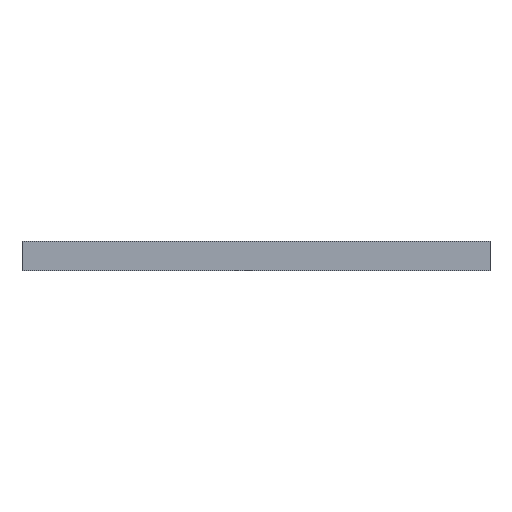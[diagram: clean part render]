
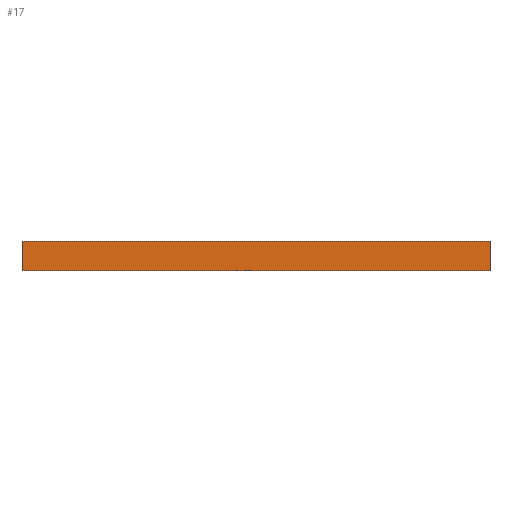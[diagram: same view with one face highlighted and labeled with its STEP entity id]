
A CAD part, front view. The second image highlights one B-rep face of the part: STEP entity #17.
In plain terms, the highlighted planar face has unit normal (0, -1, 0).
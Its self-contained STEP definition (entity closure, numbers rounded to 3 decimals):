
#17 = ADVANCED_FACE('',(#18),#32,.F.);
#18 = FACE_BOUND('',#19,.F.);
#19 = EDGE_LOOP('',(#20,#55,#83,#111));
#20 = ORIENTED_EDGE('',*,*,#21,.T.);
#21 = EDGE_CURVE('',#22,#24,#26,.T.);
#22 = VERTEX_POINT('',#23);
#23 = CARTESIAN_POINT('',(-12.7,-54.2,189.));
#24 = VERTEX_POINT('',#25);
#25 = CARTESIAN_POINT('',(-12.7,-54.2,190.6));
#26 = SURFACE_CURVE('',#27,(#31,#43),.PCURVE_S1.);
#27 = LINE('',#28,#29);
#28 = CARTESIAN_POINT('',(-12.7,-54.2,189.));
#29 = VECTOR('',#30,1.);
#30 = DIRECTION('',(0.,0.,1.));
#31 = PCURVE('',#32,#37);
#32 = PLANE('',#33);
#33 = AXIS2_PLACEMENT_3D('',#34,#35,#36);
#34 = CARTESIAN_POINT('',(-12.7,-54.2,189.));
#35 = DIRECTION('',(0.,1.,0.));
#36 = DIRECTION('',(1.,0.,0.));
#37 = DEFINITIONAL_REPRESENTATION('',(#38),#42);
#38 = LINE('',#39,#40);
#39 = CARTESIAN_POINT('',(0.,0.));
#40 = VECTOR('',#41,1.);
#41 = DIRECTION('',(0.,-1.));
#42 = ( GEOMETRIC_REPRESENTATION_CONTEXT(2) 
PARAMETRIC_REPRESENTATION_CONTEXT() REPRESENTATION_CONTEXT('2D SPACE',''
  ) );
#43 = PCURVE('',#44,#49);
#44 = PLANE('',#45);
#45 = AXIS2_PLACEMENT_3D('',#46,#47,#48);
#46 = CARTESIAN_POINT('',(-12.7,-28.8,189.));
#47 = DIRECTION('',(1.,0.,-0.));
#48 = DIRECTION('',(0.,-1.,0.));
#49 = DEFINITIONAL_REPRESENTATION('',(#50),#54);
#50 = LINE('',#51,#52);
#51 = CARTESIAN_POINT('',(25.4,0.));
#52 = VECTOR('',#53,1.);
#53 = DIRECTION('',(0.,-1.));
#54 = ( GEOMETRIC_REPRESENTATION_CONTEXT(2) 
PARAMETRIC_REPRESENTATION_CONTEXT() REPRESENTATION_CONTEXT('2D SPACE',''
  ) );
#55 = ORIENTED_EDGE('',*,*,#56,.T.);
#56 = EDGE_CURVE('',#24,#57,#59,.T.);
#57 = VERTEX_POINT('',#58);
#58 = CARTESIAN_POINT('',(12.7,-54.2,190.6));
#59 = SURFACE_CURVE('',#60,(#64,#71),.PCURVE_S1.);
#60 = LINE('',#61,#62);
#61 = CARTESIAN_POINT('',(-12.7,-54.2,190.6));
#62 = VECTOR('',#63,1.);
#63 = DIRECTION('',(1.,0.,0.));
#64 = PCURVE('',#32,#65);
#65 = DEFINITIONAL_REPRESENTATION('',(#66),#70);
#66 = LINE('',#67,#68);
#67 = CARTESIAN_POINT('',(0.,-1.6));
#68 = VECTOR('',#69,1.);
#69 = DIRECTION('',(1.,0.));
#70 = ( GEOMETRIC_REPRESENTATION_CONTEXT(2) 
PARAMETRIC_REPRESENTATION_CONTEXT() REPRESENTATION_CONTEXT('2D SPACE',''
  ) );
#71 = PCURVE('',#72,#77);
#72 = PLANE('',#73);
#73 = AXIS2_PLACEMENT_3D('',#74,#75,#76);
#74 = CARTESIAN_POINT('',(0.,-41.5,190.6));
#75 = DIRECTION('',(0.,0.,1.));
#76 = DIRECTION('',(1.,0.,-0.));
#77 = DEFINITIONAL_REPRESENTATION('',(#78),#82);
#78 = LINE('',#79,#80);
#79 = CARTESIAN_POINT('',(-12.7,-12.7));
#80 = VECTOR('',#81,1.);
#81 = DIRECTION('',(1.,0.));
#82 = ( GEOMETRIC_REPRESENTATION_CONTEXT(2) 
PARAMETRIC_REPRESENTATION_CONTEXT() REPRESENTATION_CONTEXT('2D SPACE',''
  ) );
#83 = ORIENTED_EDGE('',*,*,#84,.F.);
#84 = EDGE_CURVE('',#85,#57,#87,.T.);
#85 = VERTEX_POINT('',#86);
#86 = CARTESIAN_POINT('',(12.7,-54.2,189.));
#87 = SURFACE_CURVE('',#88,(#92,#99),.PCURVE_S1.);
#88 = LINE('',#89,#90);
#89 = CARTESIAN_POINT('',(12.7,-54.2,189.));
#90 = VECTOR('',#91,1.);
#91 = DIRECTION('',(0.,0.,1.));
#92 = PCURVE('',#32,#93);
#93 = DEFINITIONAL_REPRESENTATION('',(#94),#98);
#94 = LINE('',#95,#96);
#95 = CARTESIAN_POINT('',(25.4,0.));
#96 = VECTOR('',#97,1.);
#97 = DIRECTION('',(0.,-1.));
#98 = ( GEOMETRIC_REPRESENTATION_CONTEXT(2) 
PARAMETRIC_REPRESENTATION_CONTEXT() REPRESENTATION_CONTEXT('2D SPACE',''
  ) );
#99 = PCURVE('',#100,#105);
#100 = PLANE('',#101);
#101 = AXIS2_PLACEMENT_3D('',#102,#103,#104);
#102 = CARTESIAN_POINT('',(12.7,-54.2,189.));
#103 = DIRECTION('',(-1.,0.,0.));
#104 = DIRECTION('',(0.,1.,0.));
#105 = DEFINITIONAL_REPRESENTATION('',(#106),#110);
#106 = LINE('',#107,#108);
#107 = CARTESIAN_POINT('',(0.,0.));
#108 = VECTOR('',#109,1.);
#109 = DIRECTION('',(0.,-1.));
#110 = ( GEOMETRIC_REPRESENTATION_CONTEXT(2) 
PARAMETRIC_REPRESENTATION_CONTEXT() REPRESENTATION_CONTEXT('2D SPACE',''
  ) );
#111 = ORIENTED_EDGE('',*,*,#112,.F.);
#112 = EDGE_CURVE('',#22,#85,#113,.T.);
#113 = SURFACE_CURVE('',#114,(#118,#125),.PCURVE_S1.);
#114 = LINE('',#115,#116);
#115 = CARTESIAN_POINT('',(-12.7,-54.2,189.));
#116 = VECTOR('',#117,1.);
#117 = DIRECTION('',(1.,0.,0.));
#118 = PCURVE('',#32,#119);
#119 = DEFINITIONAL_REPRESENTATION('',(#120),#124);
#120 = LINE('',#121,#122);
#121 = CARTESIAN_POINT('',(0.,0.));
#122 = VECTOR('',#123,1.);
#123 = DIRECTION('',(1.,0.));
#124 = ( GEOMETRIC_REPRESENTATION_CONTEXT(2) 
PARAMETRIC_REPRESENTATION_CONTEXT() REPRESENTATION_CONTEXT('2D SPACE',''
  ) );
#125 = PCURVE('',#126,#131);
#126 = PLANE('',#127);
#127 = AXIS2_PLACEMENT_3D('',#128,#129,#130);
#128 = CARTESIAN_POINT('',(0.,-41.5,189.));
#129 = DIRECTION('',(0.,0.,1.));
#130 = DIRECTION('',(1.,0.,-0.));
#131 = DEFINITIONAL_REPRESENTATION('',(#132),#136);
#132 = LINE('',#133,#134);
#133 = CARTESIAN_POINT('',(-12.7,-12.7));
#134 = VECTOR('',#135,1.);
#135 = DIRECTION('',(1.,0.));
#136 = ( GEOMETRIC_REPRESENTATION_CONTEXT(2) 
PARAMETRIC_REPRESENTATION_CONTEXT() REPRESENTATION_CONTEXT('2D SPACE',''
  ) );
